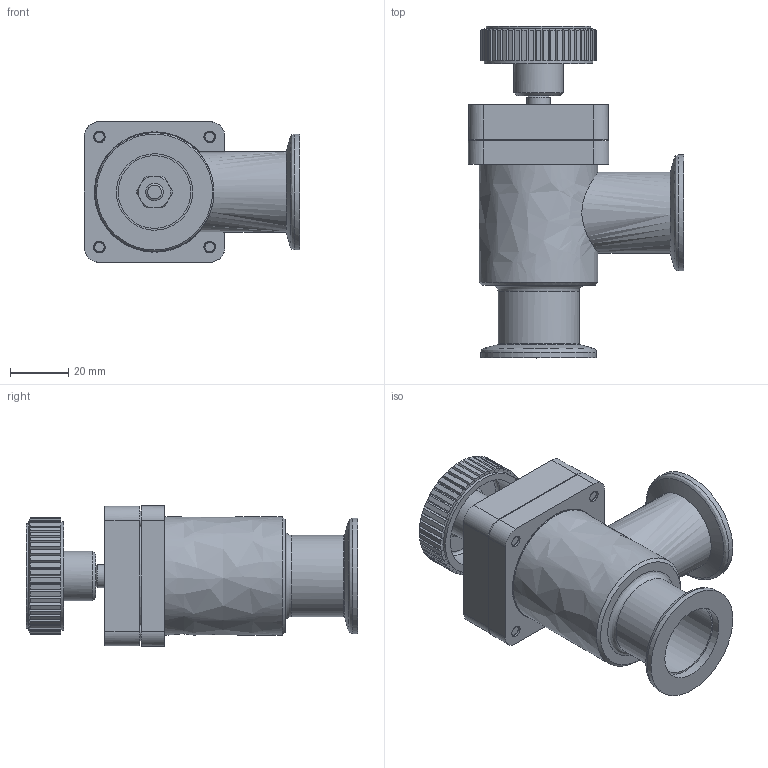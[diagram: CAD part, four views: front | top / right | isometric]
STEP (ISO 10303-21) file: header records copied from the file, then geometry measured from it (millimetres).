
FILE_DESCRIPTION((''),'2;1');
FILE_NAME('C:\TEMP\IDEAS\309678.stp','2006-09-19T15:35:49',('User'),( 'SDRC'),'I-DEAS Master Series 9','UNIX','Yes');
FILE_SCHEMA(('CONFIG_CONTROL_DESIGN'));
Length unit declared in the file: millimetre
Assembly tree (12 placements, depth 0):
Bounding box: 74.2 x 114.3 x 48.4 mm (x, y, z)
Volume: 72210.6 mm3; surface area: 50969.3 mm2
Topology: 19 solids, 19 shells, 462 faces, 1167 edges, 781 vertices
Faces by surface type: bspline 462
Entity records: 15343 total; most frequent: CARTESIAN_POINT 7911, ORIENTED_EDGE 2084, EDGE_CURVE 1042, VERTEX_POINT 679, EDGE_LOOP 457, FACE_OUTER_BOUND 405, ADVANCED_FACE 405, QUASI_UNIFORM_CURVE 337
